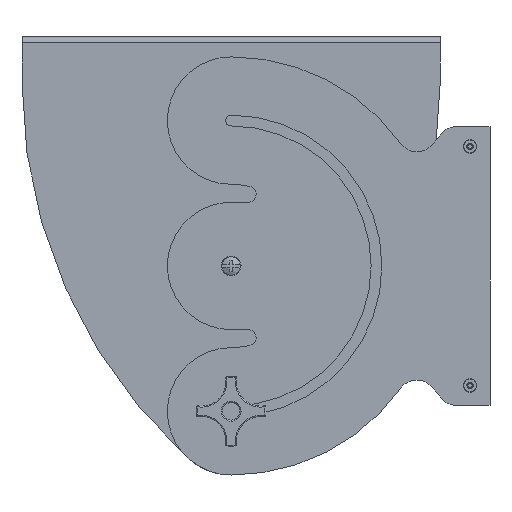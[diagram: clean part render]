
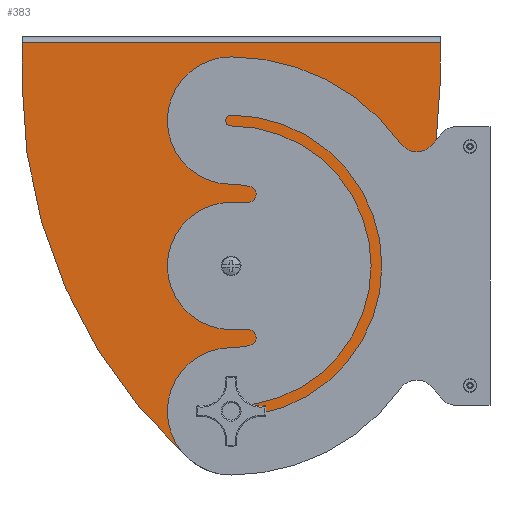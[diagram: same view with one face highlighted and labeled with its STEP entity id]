
A CAD part, front view. The second image highlights one B-rep face of the part: STEP entity #383.
In plain terms, the highlighted planar face has unit normal (0, -1, 0) as drawn and (0, 1, 0) by its records, which use the part's own axes.
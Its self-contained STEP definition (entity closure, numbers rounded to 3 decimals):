
#383 = ADVANCED_FACE( '', ( #672, #673, #674 ), #675, .F. );
#672 = FACE_OUTER_BOUND( '', #1100, .T. );
#673 = FACE_BOUND( '', #1101, .T. );
#674 = FACE_BOUND( '', #1102, .T. );
#675 = PLANE( '', #1103 );
#1100 = EDGE_LOOP( '', ( #1899, #1900, #1901, #1902, #1903, #1904 ) );
#1101 = EDGE_LOOP( '', ( #1905 ) );
#1102 = EDGE_LOOP( '', ( #1906 ) );
#1103 = AXIS2_PLACEMENT_3D( '', #1907, #1908, #1909 );
#1899 = ORIENTED_EDGE( '', *, *, #2612, .F. );
#1900 = ORIENTED_EDGE( '', *, *, #2599, .F. );
#1901 = ORIENTED_EDGE( '', *, *, #2510, .T. );
#1902 = ORIENTED_EDGE( '', *, *, #2615, .F. );
#1903 = ORIENTED_EDGE( '', *, *, #2546, .F. );
#1904 = ORIENTED_EDGE( '', *, *, #2617, .F. );
#1905 = ORIENTED_EDGE( '', *, *, #2606, .F. );
#1906 = ORIENTED_EDGE( '', *, *, #2597, .F. );
#1907 = CARTESIAN_POINT( '', ( 0., 2.413, 0. ) );
#1908 = DIRECTION( '', ( 0., -1., 0. ) );
#1909 = DIRECTION( '', ( 0., 0., -1. ) );
#2510 = EDGE_CURVE( '', #3960, #3961, #3962, .F. );
#2546 = EDGE_CURVE( '', #4020, #4022, #4023, .T. );
#2597 = EDGE_CURVE( '', #4109, #4109, #4110, .T. );
#2599 = EDGE_CURVE( '', #3960, #4112, #4113, .T. );
#2606 = EDGE_CURVE( '', #4121, #4121, #4122, .T. );
#2612 = EDGE_CURVE( '', #4112, #4128, #4129, .T. );
#2615 = EDGE_CURVE( '', #4022, #3961, #4132, .T. );
#2617 = EDGE_CURVE( '', #4128, #4020, #4134, .T. );
#3960 = VERTEX_POINT( '', #4510 );
#3961 = VERTEX_POINT( '', #4511 );
#3962 = CIRCLE( '', #4512, 40.64 );
#4020 = VERTEX_POINT( '', #4576 );
#4022 = VERTEX_POINT( '', #4578 );
#4023 = LINE( '', #4579, #4580 );
#4109 = VERTEX_POINT( '', #4676 );
#4110 = CIRCLE( '', #4677, 4.915 );
#4112 = VERTEX_POINT( '', #4679 );
#4113 = CIRCLE( '', #4680, 324.376 );
#4121 = VERTEX_POINT( '', #4689 );
#4122 = CIRCLE( '', #4690, 4.763 );
#4128 = VERTEX_POINT( '', #4696 );
#4129 = LINE( '', #4697, #4698 );
#4132 = CIRCLE( '', #4701, 324.376 );
#4134 = LINE( '', #4703, #4704 );
#4510 = CARTESIAN_POINT( '', ( 27.361, 2.413, -265.178 ) );
#4511 = CARTESIAN_POINT( '', ( -27.361, 2.413, -265.178 ) );
#4512 = AXIS2_PLACEMENT_3D( '', #5330, #5331, #5332 );
#4576 = CARTESIAN_POINT( '', ( -133.35, 2.413, 0. ) );
#4578 = CARTESIAN_POINT( '', ( -133.35, 2.413, -25.33 ) );
#4579 = CARTESIAN_POINT( '', ( -133.35, 2.413, 0. ) );
#4580 = VECTOR( '', #5399, 1000. );
#4676 = CARTESIAN_POINT( '', ( -4.915, 2.413, -235.128 ) );
#4677 = AXIS2_PLACEMENT_3D( '', #5500, #5501, #5502 );
#4679 = CARTESIAN_POINT( '', ( 133.35, 2.413, -25.33 ) );
#4680 = AXIS2_PLACEMENT_3D( '', #5503, #5504, #5505 );
#4689 = CARTESIAN_POINT( '', ( -4.763, 2.413, -142.418 ) );
#4690 = AXIS2_PLACEMENT_3D( '', #5510, #5511, #5512 );
#4696 = CARTESIAN_POINT( '', ( 133.35, 2.413, 0. ) );
#4697 = CARTESIAN_POINT( '', ( 133.35, 2.413, 0. ) );
#4698 = VECTOR( '', #5513, 1000. );
#4701 = AXIS2_PLACEMENT_3D( '', #5517, #5518, #5519 );
#4703 = CARTESIAN_POINT( '', ( -133.35, 2.413, 0. ) );
#4704 = VECTOR( '', #5520, 1000. );
#5330 = CARTESIAN_POINT( '', ( 0., 2.413, -235.128 ) );
#5331 = DIRECTION( '', ( 0., -1., 0. ) );
#5332 = DIRECTION( '', ( 0., 0., -1. ) );
#5399 = DIRECTION( '', ( 0., 0., -1. ) );
#5500 = CARTESIAN_POINT( '', ( 0., 2.413, -235.128 ) );
#5501 = DIRECTION( '', ( 0., 1., 0. ) );
#5502 = DIRECTION( '', ( -1., 0., 0. ) );
#5503 = CARTESIAN_POINT( '', ( -191.026, 2.413, -25.33 ) );
#5504 = DIRECTION( '', ( 0., -1., 0. ) );
#5505 = DIRECTION( '', ( -1., 0., 0. ) );
#5510 = CARTESIAN_POINT( '', ( 0., 2.413, -142.418 ) );
#5511 = DIRECTION( '', ( 0., 1., 0. ) );
#5512 = DIRECTION( '', ( -1., 0., 0. ) );
#5513 = DIRECTION( '', ( 0., 0., 1. ) );
#5517 = CARTESIAN_POINT( '', ( 191.026, 2.413, -25.33 ) );
#5518 = DIRECTION( '', ( 0., -1., 0. ) );
#5519 = DIRECTION( '', ( 1., 0., 0. ) );
#5520 = DIRECTION( '', ( -1., 0., 0. ) );
